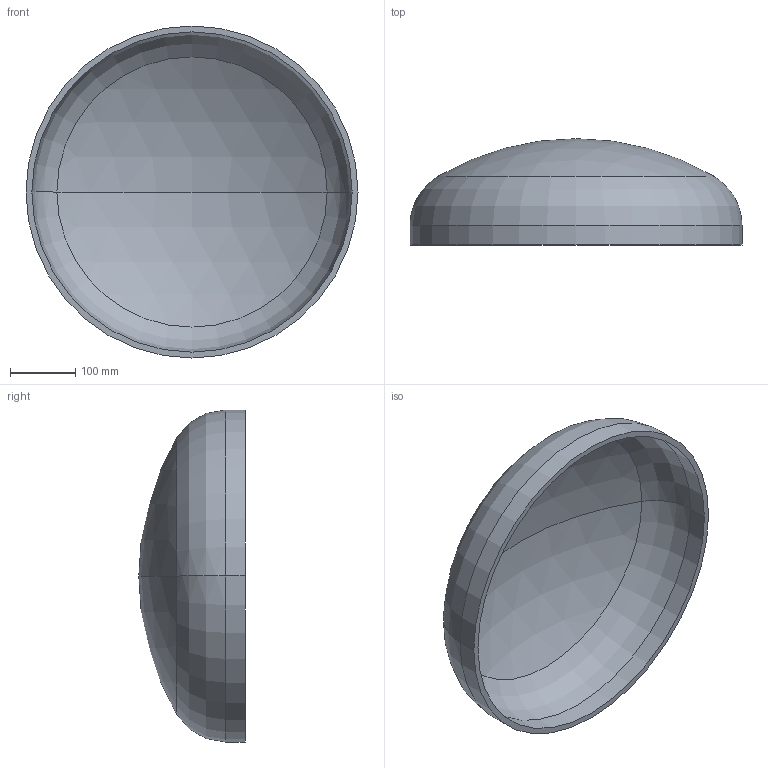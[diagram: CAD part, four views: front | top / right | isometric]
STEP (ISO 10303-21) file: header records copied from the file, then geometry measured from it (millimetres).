
FILE_DESCRIPTION (( 'STEP AP203' ), '1' );
FILE_NAME ('DIN 28013 Korbbogenform_-_Boden DIN 28013 - 508 x 30 - I - s=9.step', '2016-07-01T07:52:11', ( '' ), ( '' ), 'SwSTEP 2.0', 'SolidWorks 2013', '' );
FILE_SCHEMA (( 'CONFIG_CONTROL_DESIGN' ));
Length unit declared in the file: millimetre
Products named in the file (1): DIN 28013 Korbbogenform_-_Boden DIN 28013 - 508 x 30 - I - s=9
Bounding box: 508 x 162.7 x 508 mm (x, y, z)
Volume: 2890111.5 mm3; surface area: 656525.3 mm2
Topology: 1 solids, 1 shells, 13 faces, 24 edges, 14 vertices
Faces by surface type: torus 4, cylinder 4, sphere 4, plane 1
Entity records: 407 total; most frequent: DIRECTION 72, CARTESIAN_POINT 52, ORIENTED_EDGE 48, AXIS2_PLACEMENT_3D 34, EDGE_CURVE 24, CIRCLE 20, EDGE_LOOP 14, VERTEX_POINT 14
